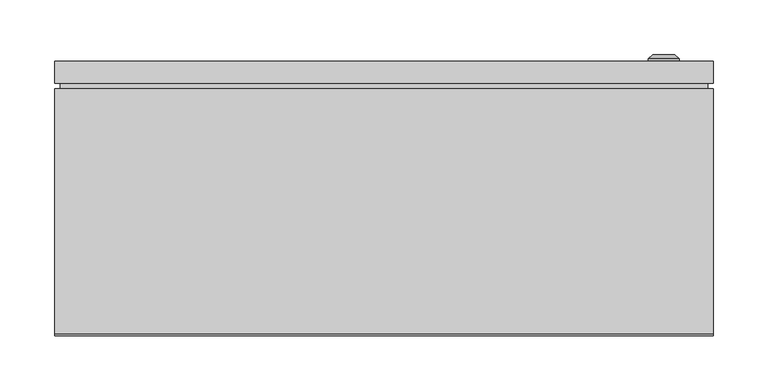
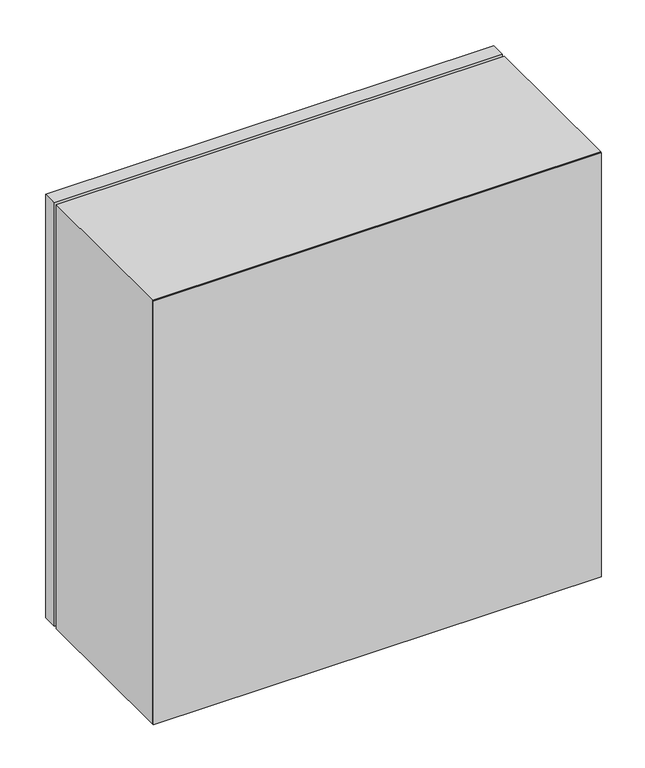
"""IFC4 building model written with IfcOpenShell, lengths in millimetres: proxy geometry, ЩМП_IP65 : ЩМП-6.6.2-0_600х600х250."""

from ifc_helpers import new_model, si_unit, frame, origin, origin_with_axes, place, context, project, spatial, polyline, circle_curve, outline, extrude, source, transform, mapped, element, save
from ifc_brep_helpers import plane_surface, cylinder_surface, revolved_surface, advanced_brep


def electrical_equipment_f4f822a1(model_context):
    return source(origin(), model_context, "Body", "SolidModel", [
        extrude(outline(polyline([(295.0, 225.0), (-295.0, 225.0), (-295.0, 230.0), (295.0, 230.0), (295.0, 225.0)])), frame((0.0, 0.0, 5.0), z_axis=(0.0, 0.0, 1.0), x_axis=(1.0, 0.0, 0.0)), (0.0, 0.0, 1.0), 590.0),
        extrude(outline(polyline([(300.0, 230.0), (-300.0, 230.0), (-300.0, 250.0), (300.0, 250.0), (300.0, 230.0)])), origin_with_axes(), (0.0, 0.0, 1.0), 600.0),
        advanced_brep(
        [(240.669873, 250.0, 300.0), (269.330127, 250.0, 300.0), (255.0, 250.0, 300.0), (240.669873, 252.366592, 300.0), (269.330127, 252.366592, 300.0), (245.0, 256.0, 300.0), (265.0, 256.0, 300.0), (253.1080471, 256.0, 300.0), (256.8919529, 256.0, 300.0), (253.1080471, 254.9822294, 300.0), (256.8919529, 254.9822294, 300.0), (255.0, 254.9822294, 300.0)],
        [
            (0, 1, circle_curve(frame((255.0, 250.0, 300.0), z_axis=(0.0, -1.0, 0.0), x_axis=(1.0, 0.0, 0.0)), 14.330127)),
            (1, 2),
            (2, 0),
            (1, 0, circle_curve(frame((255.0, 250.0, 300.0), z_axis=(0.0, -1.0, 0.0), x_axis=(1.0, 0.0, 0.0)), 14.330127)),
            (3, 4, circle_curve(frame((255.0, 252.366592, 300.0), z_axis=(0.0, -1.0, 0.0), x_axis=(1.0, 0.0, 0.0)), 14.330127)),
            (4, 1),
            (0, 3),
            (4, 3, circle_curve(frame((255.0, 252.366592, 300.0), z_axis=(0.0, -1.0, 0.0), x_axis=(1.0, 0.0, 0.0)), 14.330127)),
            (5, 6, circle_curve(frame((255.0, 256.0, 300.0), z_axis=(0.0, -1.0, 0.0), x_axis=(1.0, 0.0, 0.0)), 10.0)),
            (6, 4),
            (3, 5),
            (6, 5, circle_curve(frame((255.0, 256.0, 300.0), z_axis=(0.0, -1.0, 0.0), x_axis=(1.0, 0.0, 0.0)), 10.0)),
            (7, 8, circle_curve(frame((255.0, 256.0, 300.0), z_axis=(0.0, -1.0, 0.0), x_axis=(1.0, 0.0, 0.0)), 1.8919529)),
            (8, 6),
            (5, 7),
            (8, 7, circle_curve(frame((255.0, 256.0, 300.0), z_axis=(0.0, -1.0, 0.0), x_axis=(1.0, 0.0, 0.0)), 1.8919529)),
            (9, 10, circle_curve(frame((255.0, 254.9822294, 300.0), z_axis=(0.0, -1.0, 0.0), x_axis=(1.0, 0.0, 0.0)), 1.8919529)),
            (10, 8),
            (7, 9),
            (10, 9, circle_curve(frame((255.0, 254.9822294, 300.0), z_axis=(0.0, -1.0, 0.0), x_axis=(1.0, 0.0, 0.0)), 1.8919529)),
            (11, 10),
            (9, 11),
        ],
        [
            plane_surface(frame((255.0, 250.0, 300.0), z_axis=(0.0, -1.0, 0.0), x_axis=(1.0, 0.0, 0.0))),
            cylinder_surface(frame((255.0, 263.1348851, 300.0), z_axis=(0.0, 1.0, 0.0), x_axis=(1.0, 0.0, 0.0)), 14.330127),
            revolved_surface(polyline([(269.330127, 252.366592, 300.0), (265.0, 256.0, 300.0)]), (255.0, 263.1348851, 300.0), (0.0, 1.0, 0.0)),
            plane_surface(frame((255.0, 256.0, 300.0), z_axis=(0.0, 1.0, 0.0), x_axis=(1.0, 0.0, 0.0))),
            revolved_surface(polyline([(256.8919529, 256.0, 300.0), (256.8919529, 254.9822294, 300.0)]), (255.0, 263.1348851, 300.0), (0.0, 1.0, 0.0)),
            plane_surface(frame((255.0, 254.9822294, 300.0), z_axis=(0.0, 1.0, 0.0), x_axis=(1.0, 0.0, 0.0))),
        ],
        [
            (0, [[1, 2, 3]]),
            (0, [[4, -3, -2]]),
            (1, [[5, 6, -1, 7]]),
            (1, [[8, -7, -4, -6]]),
            (2, [[9, 10, -5, 11]]),
            (2, [[12, -11, -8, -10]]),
            (3, [[13, 14, -9, 15]]),
            (3, [[16, -15, -12, -14]]),
            (4, [[17, 18, -13, 19]]),
            (4, [[20, -19, -16, -18]]),
            (5, [[21, -17, 22]]),
            (5, [[-22, -20, -21]]),
        ],
    ),
        extrude(outline(polyline([(600.0, -300.0033905), (0.0, -300.0033905), (0.0, 299.9966095), (600.0, 299.9966095), (600.0, -300.0033905)]), holes=[polyline([(565.0, -265.0033905), (565.0, 264.9966095), (35.0, 264.9966095), (35.0, -265.0033905), (565.0, -265.0033905)])]), frame((0.0, 2.0, 0.0), z_axis=(0.0, 1.0, 0.0), x_axis=(0.0, 0.0, 1.0)), (0.0, 0.0, 1.0), 223.0),
        extrude(outline(polyline([(300.0, 0.0), (-300.0, 0.0), (-300.0, 2.0), (300.0, 2.0), (300.0, 0.0)])), origin_with_axes(), (0.0, 0.0, 1.0), 600.0),
    ])


if __name__ == "__main__":
    model = new_model("IFC4")
    model_context = context("Model", 3, world=origin())
    ifc_project = project(units=[si_unit("LENGTHUNIT", "METRE", prefix="MILLI")], contexts=[model_context])
    site = spatial("IfcSite", under=ifc_project)
    building = spatial("IfcBuilding", under=site)
    placement = place(None, origin())
    electrical_equipment_shape = electrical_equipment_f4f822a1(model_context)
    element("IfcBuildingElementProxy", 1, Name="ЩМП_IP65 : ЩМП-6.6.2-0_600х600х250", ObjectType="ЩМП_IP65 : ЩМП-6.6.2-0_600х600х250", at=placement, inside=building, context=model_context, shape_type="MappedRepresentation", body=[
        mapped(electrical_equipment_shape, transform((0.0, 0.0, 0.0), x_axis=(1.0, 0.0, 0.0), y_axis=(0.0, 1.0, 0.0), z_axis=(0.0, 0.0, 1.0))),
    ])
    save(model, "model.ifc")
